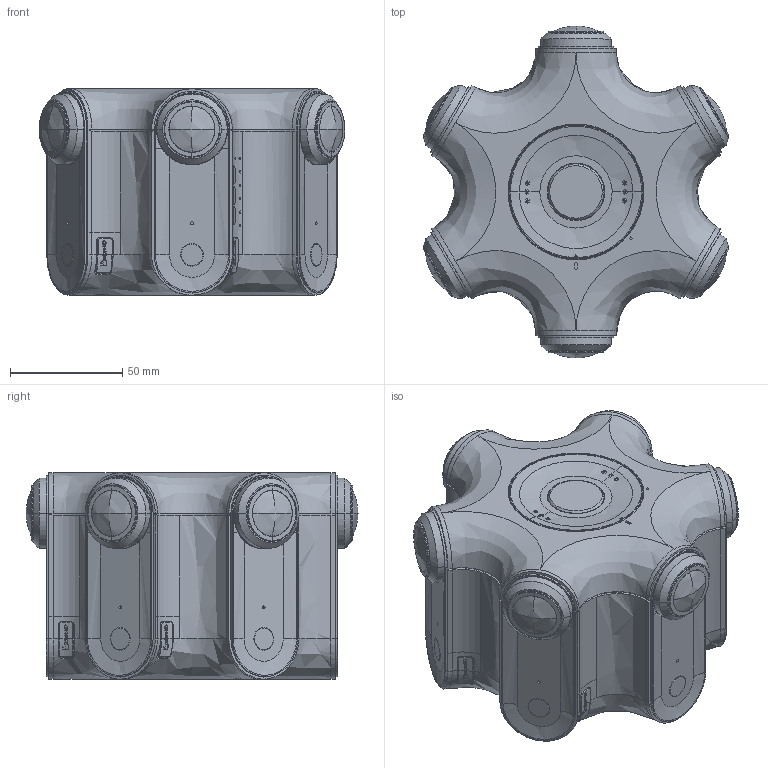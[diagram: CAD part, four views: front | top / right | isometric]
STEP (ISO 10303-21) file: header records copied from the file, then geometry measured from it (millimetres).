
FILE_DESCRIPTION(/* description */ (''),/* implementation_level */ '2;1');
FILE_NAME(/* name */ 'OBSIDI~1',/* time_stamp */ '2017-10-19T18:36:27+08:00',/* author */ (''),/* organization */ (''),/* preprocessor_version */ 'ST-DEVELOPER v15',/* originating_system */ '',/* authorisation */ '');
FILE_SCHEMA (('AUTOMOTIVE_DESIGN_CC2'));
Length unit declared in the file: millimetre
Products named in the file (1): Document
Bounding box: 136.25 x 148.1 x 92 mm (x, y, z)
Volume: 1072723.4 mm3; surface area: 69594.7 mm2
Topology: 2 solids, 2 shells, 1531 faces, 3887 edges, 2460 vertices
Faces by surface type: bspline 1096, plane 435
Entity records: 72182 total; most frequent: CARTESIAN_POINT 48819, ORIENTED_EDGE 7722, EDGE_CURVE 3861, B_SPLINE_CURVE_WITH_KNOTS 2596, VERTEX_POINT 2460, EDGE_LOOP 1659, ADVANCED_FACE 1531, FACE_OUTER_BOUND 1531
